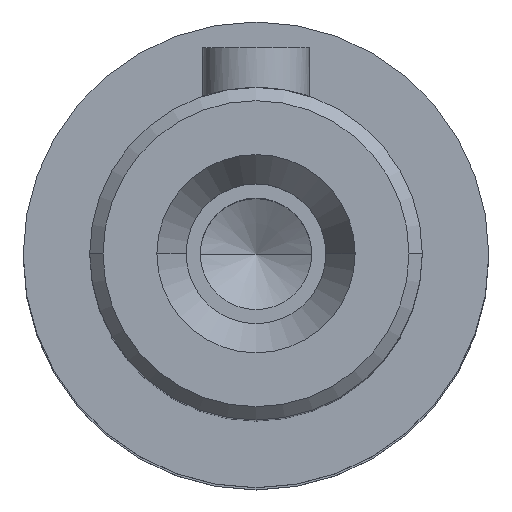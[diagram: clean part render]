
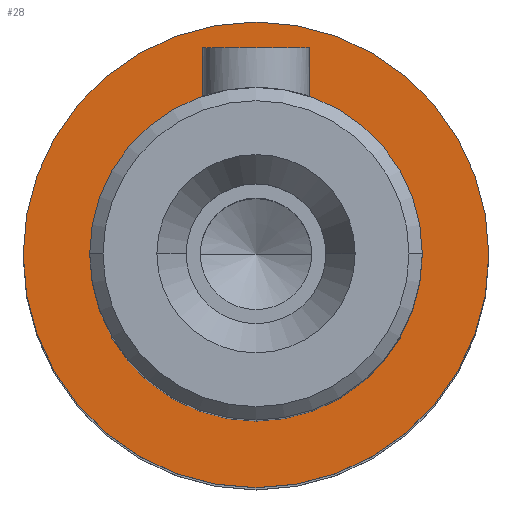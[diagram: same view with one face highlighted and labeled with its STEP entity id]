
A CAD part, top view. The second image highlights one B-rep face of the part: STEP entity #28.
In plain terms, the highlighted planar face has unit normal (0, 0, 1) as drawn and (1, 0, 0) by its records, which use the part's own axes.
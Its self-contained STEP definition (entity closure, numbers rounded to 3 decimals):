
#28=ADVANCED_FACE('',(#86,#72),#706,.T.);
#72=FACE_BOUND('',#141,.T.);
#86=FACE_OUTER_BOUND('',#140,.T.);
#140=EDGE_LOOP('',(#231,#232));
#141=EDGE_LOOP('',(#233,#234));
#231=ORIENTED_EDGE('',*,*,#458,.F.);
#232=ORIENTED_EDGE('',*,*,#397,.F.);
#233=ORIENTED_EDGE('',*,*,#448,.F.);
#234=ORIENTED_EDGE('',*,*,#387,.F.);
#387=EDGE_CURVE('',#638,#672,#531,.T.);
#397=EDGE_CURVE('',#646,#679,#537,.T.);
#448=EDGE_CURVE('',#672,#638,#560,.T.);
#458=EDGE_CURVE('',#679,#646,#566,.T.);
#531=TRIMMED_CURVE($,#580,(#1382),(#1383),.T.,.CARTESIAN.);
#537=TRIMMED_CURVE($,#586,(#1408),(#1409),.T.,.CARTESIAN.);
#560=TRIMMED_CURVE($,#609,(#1557),(#1558),.T.,.CARTESIAN.);
#566=TRIMMED_CURVE($,#615,(#1583),(#1584),.T.,.CARTESIAN.);
#580=CIRCLE('',#953,12.5);
#586=CIRCLE('',#959,17.5);
#609=CIRCLE('',#982,12.5);
#615=CIRCLE('',#988,17.5);
#638=VERTEX_POINT('',#1313);
#646=VERTEX_POINT('',#1321);
#672=VERTEX_POINT('',#1347);
#679=VERTEX_POINT('',#1354);
#706=PLANE('',#924);
#924=AXIS2_PLACEMENT_3D('',#1165,#1015,$);
#953=AXIS2_PLACEMENT_3D($,#1381,#1046,#1047);
#959=AXIS2_PLACEMENT_3D($,#1407,#1058,#1059);
#982=AXIS2_PLACEMENT_3D($,#1556,#1104,#1105);
#988=AXIS2_PLACEMENT_3D($,#1582,#1116,#1117);
#1015=DIRECTION('',(1.,0.,0.));
#1046=DIRECTION('',(1.,0.,0.));
#1047=DIRECTION('',(0.,0.,-1.));
#1058=DIRECTION('',(-1.,0.,0.));
#1059=DIRECTION('',(0.,0.,-1.));
#1104=DIRECTION('',(1.,0.,0.));
#1105=DIRECTION('',(0.,0.,1.));
#1116=DIRECTION('',(-1.,0.,0.));
#1117=DIRECTION('',(0.,0.,1.));
#1165=CARTESIAN_POINT('',(49.5,-21.06,-21.06));
#1313=CARTESIAN_POINT('',(49.5,0.,-12.5));
#1321=CARTESIAN_POINT('',(49.5,0.,-17.5));
#1347=CARTESIAN_POINT('',(49.5,0.,12.5));
#1354=CARTESIAN_POINT('',(49.5,0.,17.5));
#1381=CARTESIAN_POINT('',(49.5,0.,0.));
#1382=CARTESIAN_POINT('',(49.5,0.,-12.5));
#1383=CARTESIAN_POINT('',(49.5,0.,12.5));
#1407=CARTESIAN_POINT('',(49.5,0.,0.));
#1408=CARTESIAN_POINT('',(49.5,0.,-17.5));
#1409=CARTESIAN_POINT('',(49.5,0.,17.5));
#1556=CARTESIAN_POINT('',(49.5,0.,0.));
#1557=CARTESIAN_POINT('',(49.5,0.,12.5));
#1558=CARTESIAN_POINT('',(49.5,0.,-12.5));
#1582=CARTESIAN_POINT('',(49.5,0.,0.));
#1583=CARTESIAN_POINT('',(49.5,0.,17.5));
#1584=CARTESIAN_POINT('',(49.5,0.,-17.5));
